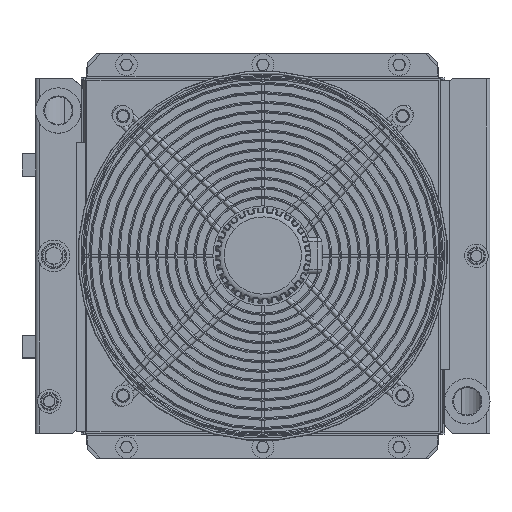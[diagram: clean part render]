
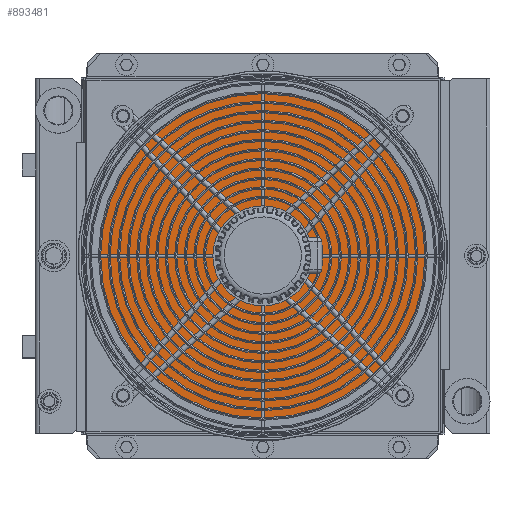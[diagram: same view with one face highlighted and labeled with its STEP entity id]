
A CAD part, top view. The second image highlights one B-rep face of the part: STEP entity #893481.
In plain terms, the highlighted planar face has unit normal (0, 0, 1).
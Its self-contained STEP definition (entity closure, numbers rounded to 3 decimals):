
#891151=CARTESIAN_POINT(' ',(194.247,385.89,31.5));
#891152=VERTEX_POINT(' ',#891151);
#891506=CARTESIAN_POINT(' ',(-194.247,385.89,31.5));
#891507=VERTEX_POINT(' ',#891506);
#891521=CARTESIAN_POINT(' ',(194.247,385.89,31.5));
#891526=DIRECTION(' ',(-1.,0.,0.));
#891531=VECTOR(' ',#891526,1.);
#891536=LINE(' ',#891521,#891531);
#891541=EDGE_CURVE(' ',#891152,#891507,#891536,.T.);
#891676=CARTESIAN_POINT(' ',(194.247,385.89,31.5));
#891681=DIRECTION(' ',(0.,-1.,0.));
#891686=VECTOR(' ',#891681,1.);
#891691=LINE(' ',#891676,#891686);
#891696=CARTESIAN_POINT(' ',(194.247,0.,31.5));
#891697=VERTEX_POINT(' ',#891696);
#891701=EDGE_CURVE(' ',#891152,#891697,#891691,.T.);
#893266=CARTESIAN_POINT(' ',(-194.247,385.89,31.5));
#893271=DIRECTION(' ',(0.,-1.,0.));
#893276=VECTOR(' ',#893271,1.);
#893281=LINE(' ',#893266,#893276);
#893286=CARTESIAN_POINT(' ',(-194.247,0.,31.5));
#893287=VERTEX_POINT(' ',#893286);
#893291=EDGE_CURVE(' ',#891507,#893287,#893281,.T.);
#893401=CARTESIAN_POINT(' ',(-194.247,0.,31.5));
#893406=DIRECTION(' ',(0.,0.,1.));
#893411=DIRECTION(' ',(1.,0.,0.));
#893416=AXIS2_PLACEMENT_3D(' ',#893401,#893406,#893411);
#893421=PLANE(' ',#893416);
#893426=ORIENTED_EDGE(' ',*,*,#891701,.F.);
#893431=ORIENTED_EDGE(' ',*,*,#891541,.T.);
#893436=ORIENTED_EDGE(' ',*,*,#893291,.T.);
#893441=CARTESIAN_POINT(' ',(194.247,0.,31.5));
#893446=DIRECTION(' ',(-1.,0.,0.));
#893451=VECTOR(' ',#893446,1.);
#893456=LINE(' ',#893441,#893451);
#893461=EDGE_CURVE(' ',#891697,#893287,#893456,.T.);
#893466=ORIENTED_EDGE(' ',*,*,#893461,.F.);
#893471=EDGE_LOOP(' ',(#893426,#893431,#893436,#893466));
#893476=FACE_OUTER_BOUND(' ',#893471,.T.);
#893481=ADVANCED_FACE(' ',(#893476),#893421,.T.);
